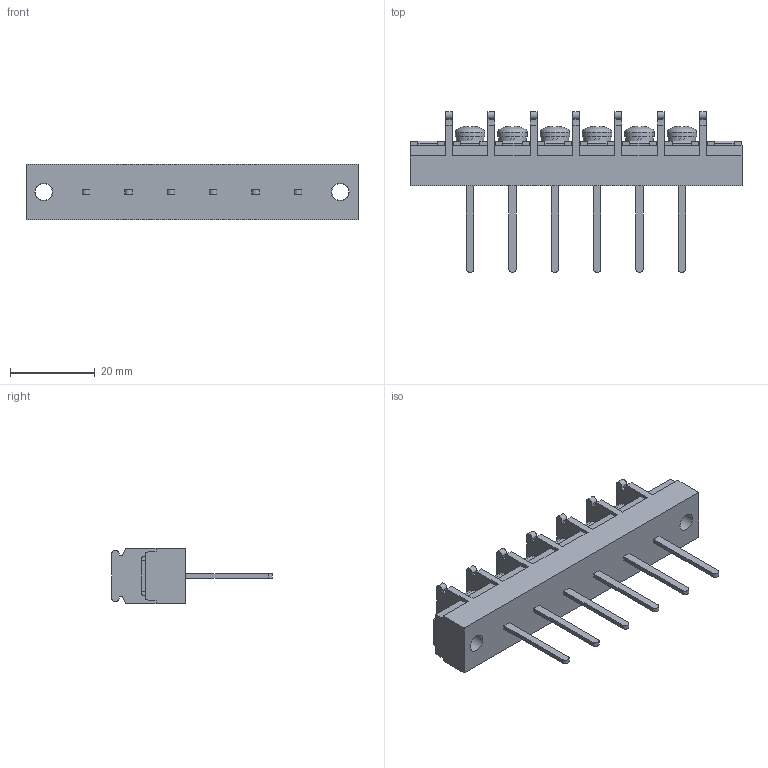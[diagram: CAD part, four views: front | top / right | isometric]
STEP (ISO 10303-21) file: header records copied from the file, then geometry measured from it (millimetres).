
FILE_DESCRIPTION(/* description */ ('Alibre Inc.'),/* implementation_level */ '2;1');
FILE_NAME(/* name */ 'export0',/* time_stamp */ '2015-10-17T19:32:11+09:00',/* author */ (''),/* organization */ (''),/* preprocessor_version */ 'ST-DEVELOPER v14',/* originating_system */ 'Alibre',/* authorisation */ '');
FILE_SCHEMA (('CONFIG_CONTROL_DESIGN'));
Length unit declared in the file: centimetre
Products named in the file (1): ID_1
Bounding box: 78.4 x 38 x 13 mm (x, y, z)
Volume: 11561.9 mm3; surface area: 7247.8 mm2
Topology: 1 solids, 17 shells, 818 faces, 2210 edges, 1468 vertices
Faces by surface type: plane 614, bspline 104, cylinder 58, cone 24, torus 12, sphere 6
Full cylindrical faces by diameter (mm): 4 x8, 4.2 x2, 6.5 x6, 7 x6
Entity records: 24839 total; most frequent: CARTESIAN_POINT 5555, ORIENTED_EDGE 4324, DIRECTION 3010, EDGE_CURVE 2162, VECTOR 1622, LINE 1622, VERTEX_POINT 1448, AXIS2_PLACEMENT_3D 997
